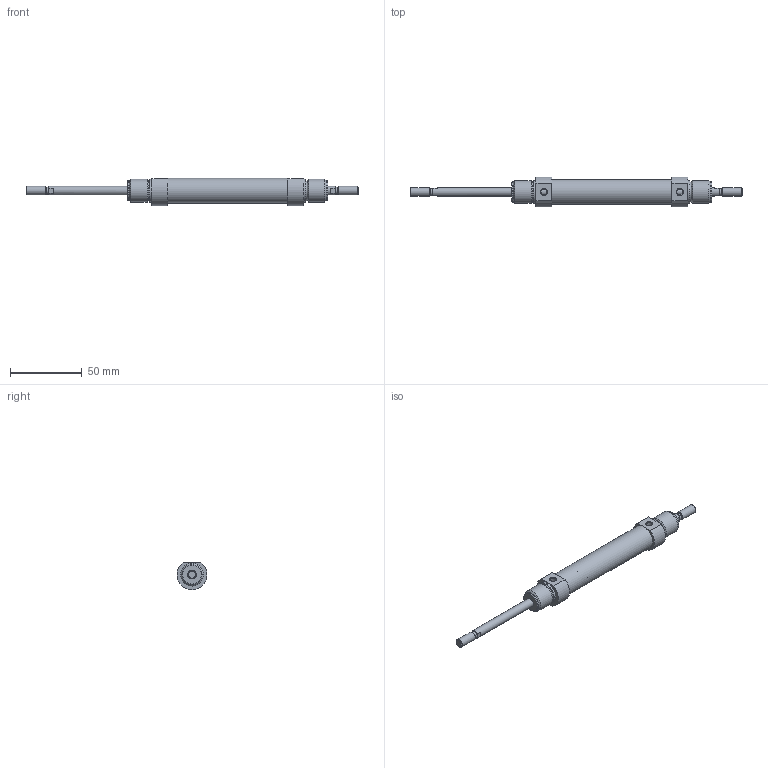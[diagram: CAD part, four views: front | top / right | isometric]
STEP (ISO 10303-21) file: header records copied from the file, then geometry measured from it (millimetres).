
FILE_DESCRIPTION( ( 'STEP AP203' ), '1' );
FILE_NAME( '//expscmdclustefs.cadenas.external/client_exchange/iodir/jobs/output/wkb68411697_no0/STEP/M101-016-0050--__0__2_03.stp', ' ', ( ' ' ), ( ' ' ), 'PSStep 15.0.47', 'PARTsolutions', ' ' );
FILE_SCHEMA( ( 'CONFIG_CONTROL_DESIGN' ) );
Length unit declared in the file: millimetre
Products named in the file (3): M101-016-0050-- [0]; HI_M101-016-0050---[0]-z; HI_M101-016-0050---[0]-k
Assembly tree (2 placements, depth 2):
  M101-016-0050-- [0]
    HI_M101-016-0050---[0]-z
    HI_M101-016-0050---[0]-k
Bounding box: 232 x 20.94 x 19.09 mm (x, y, z)
Volume: 27283 mm3; surface area: 18312 mm2
Topology: 2 solids, 2 shells, 67 faces, 135 edges, 82 vertices
Faces by surface type: plane 28, cylinder 23, cone 14, torus 2
Full cylindrical faces by diameter (mm): 4.134 x2, 4.773 x2, 6 x6, 14.16 x4, 16 x6, 17.3 x1
Entity records: 1730 total; most frequent: CARTESIAN_POINT 334, DIRECTION 292, ORIENTED_EDGE 196, AXIS2_PLACEMENT_3D 132, EDGE_LOOP 116, EDGE_CURVE 98, FACE_OUTER_BOUND 90, VERTEX_POINT 78
